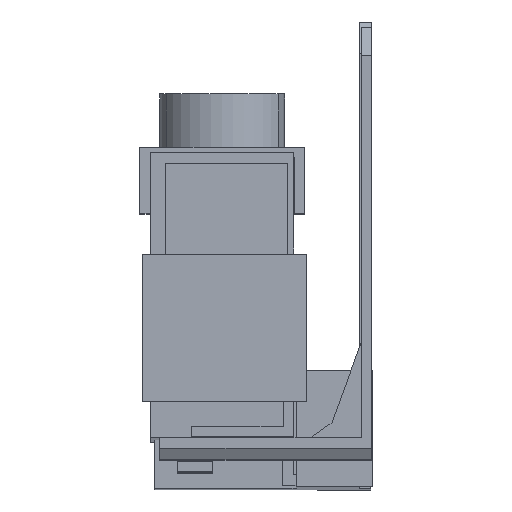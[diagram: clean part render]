
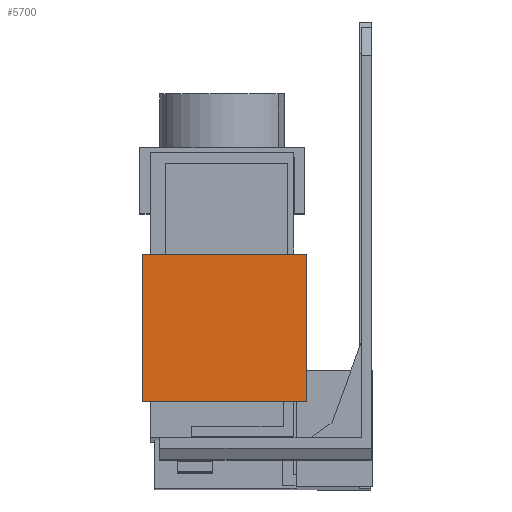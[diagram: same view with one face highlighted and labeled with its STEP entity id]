
A CAD part, front view. The second image highlights one B-rep face of the part: STEP entity #5700.
In plain terms, the highlighted planar face has unit normal (0, -1, 0.003).
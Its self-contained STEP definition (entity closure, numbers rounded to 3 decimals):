
#435 = EDGE_LOOP ( 'NONE', ( #4908, #4909, #4910, #4911 ) ) ;
#858 = LINE ( 'NONE', #1976, #865 ) ;
#865 = VECTOR ( 'NONE', #1981, 1000. ) ;
#970 = LINE ( 'NONE', #2133, #997 ) ;
#997 = VECTOR ( 'NONE', #2148, 1000. ) ;
#1060 = LINE ( 'NONE', #2220, #1061 ) ;
#1061 = VECTOR ( 'NONE', #2221, 1000. ) ;
#1146 = LINE ( 'NONE', #2321, #1147 ) ;
#1147 = VECTOR ( 'NONE', #2322, 1000. ) ;
#1976 = CARTESIAN_POINT ( 'NONE',  ( -32.7, -31.509, -40.315 ) ) ;
#1981 = DIRECTION ( 'NONE',  ( 0., 0.003, 1. ) ) ;
#2133 = CARTESIAN_POINT ( 'NONE',  ( -9.3, -31.509, -40.315 ) ) ;
#2148 = DIRECTION ( 'NONE',  ( -1., 0., 0. ) ) ;
#2220 = CARTESIAN_POINT ( 'NONE',  ( -9.3, -31.509, -40.315 ) ) ;
#2221 = DIRECTION ( 'NONE',  ( 0., 0.003, 1. ) ) ;
#2321 = CARTESIAN_POINT ( 'NONE',  ( -9.3, -31.452, -19.316 ) ) ;
#2322 = DIRECTION ( 'NONE',  ( -1., 0., 0. ) ) ;
#2498 = AXIS2_PLACEMENT_3D ( 'NONE', #3252, #3258, #3259 ) ;
#3249 = PLANE ( 'NONE',  #2498 ) ;
#3252 = CARTESIAN_POINT ( 'NONE',  ( -9.3, -31.509, -40.315 ) ) ;
#3258 = DIRECTION ( 'NONE',  ( 0., -1., 0.003 ) ) ;
#3259 = DIRECTION ( 'NONE',  ( 1., 0., 0. ) ) ;
#3666 = CARTESIAN_POINT ( 'NONE',  ( -9.3, -31.509, -40.315 ) ) ;
#3667 = CARTESIAN_POINT ( 'NONE',  ( -32.7, -31.509, -40.315 ) ) ;
#3668 = CARTESIAN_POINT ( 'NONE',  ( -32.7, -31.452, -19.316 ) ) ;
#3717 = CARTESIAN_POINT ( 'NONE',  ( -9.3, -31.452, -19.316 ) ) ;
#4043 = FACE_OUTER_BOUND ( 'NONE', #435, .T. ) ;
#4908 = ORIENTED_EDGE ( 'NONE', *, *, #5417, .T. ) ;
#4909 = ORIENTED_EDGE ( 'NONE', *, *, #5202, .F. ) ;
#4910 = ORIENTED_EDGE ( 'NONE', *, *, #5305, .F. ) ;
#4911 = ORIENTED_EDGE ( 'NONE', *, *, #5349, .T. ) ;
#5202 = EDGE_CURVE ( 'NONE', #5873, #5874, #858, .T. ) ;
#5305 = EDGE_CURVE ( 'NONE', #5872, #5873, #970, .T. ) ;
#5349 = EDGE_CURVE ( 'NONE', #5872, #5923, #1060, .T. ) ;
#5417 = EDGE_CURVE ( 'NONE', #5923, #5874, #1146, .T. ) ;
#5700 = ADVANCED_FACE ( 'NONE', ( #4043 ), #3249, .T. ) ;
#5872 = VERTEX_POINT ( 'NONE', #3666 ) ;
#5873 = VERTEX_POINT ( 'NONE', #3667 ) ;
#5874 = VERTEX_POINT ( 'NONE', #3668 ) ;
#5923 = VERTEX_POINT ( 'NONE', #3717 ) ;
